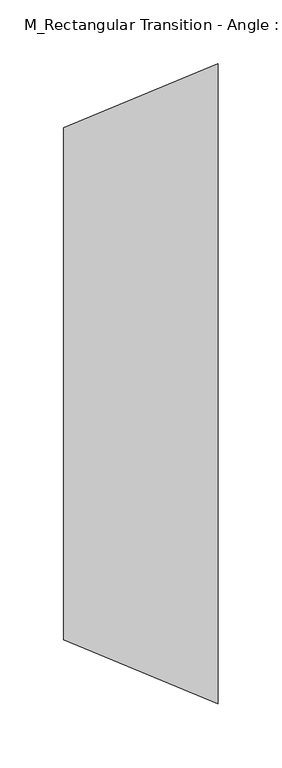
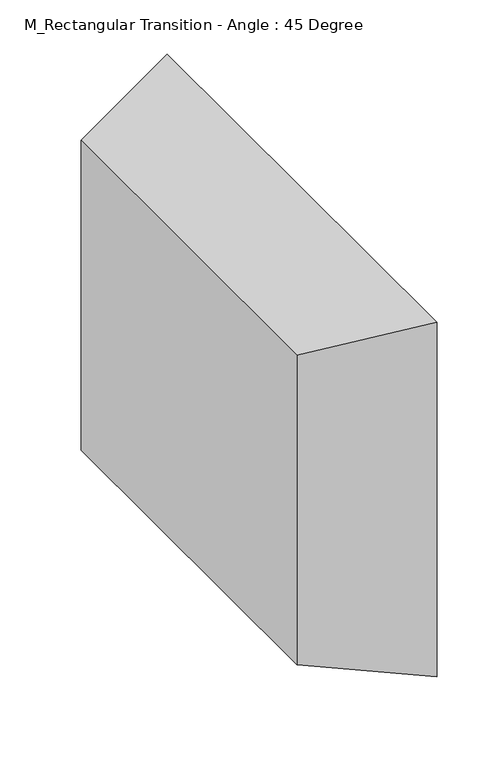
"""IFC4 building model written with IfcOpenShell, lengths in millimetres: duct fitting geometry, M_Rectangular Transition - Angle : 45 Degree."""

from ifc_helpers import new_model, si_unit, origin, place, context, project, spatial, faceted_brep, source, transform, mapped, element, save


def m_rectangular_transition_angle_45_degree_0f029b1d(model_context):
    return source(origin(), model_context, "Body", "Brep", [
        faceted_brep([(120.7106781, -250.0, 200.0), (120.7106781, -250.0, -200.0), (120.7106781, 250.0, -200.0), (120.7106781, 250.0, 200.0), (0.0, -200.0, 175.0), (0.0, 200.0, 175.0), (0.0, 200.0, -175.0), (0.0, -200.0, -175.0)], [[[0, 1, 2, 3]], [[4, 5, 6, 7]], [[4, 7, 1, 0]], [[7, 6, 2, 1]], [[6, 5, 3, 2]], [[5, 4, 0, 3]]]),
        faceted_brep([(120.7106781, -250.0, 200.0), (120.7106781, -250.0, -200.0), (120.7106781, 250.0, -200.0), (120.7106781, 250.0, 200.0), (0.0, -200.0, 175.0), (0.0, 200.0, 175.0), (0.0, 200.0, -175.0), (0.0, -200.0, -175.0)], [[[0, 1, 2, 3]], [[4, 5, 6, 7]], [[4, 7, 1, 0]], [[7, 6, 2, 1]], [[6, 5, 3, 2]], [[5, 4, 0, 3]]]),
        faceted_brep([(120.7106781, -250.0, 200.0), (120.7106781, -250.0, -200.0), (120.7106781, 250.0, -200.0), (120.7106781, 250.0, 200.0), (0.0, -200.0, 175.0), (0.0, 200.0, 175.0), (0.0, 200.0, -175.0), (0.0, -200.0, -175.0)], [[[0, 1, 2, 3]], [[4, 5, 6, 7]], [[4, 7, 1, 0]], [[7, 6, 2, 1]], [[6, 5, 3, 2]], [[5, 4, 0, 3]]]),
    ])


if __name__ == "__main__":
    model = new_model("IFC4")
    model_context = context("Model", 3, world=origin())
    ifc_project = project(units=[si_unit("LENGTHUNIT", "METRE", prefix="MILLI")], contexts=[model_context])
    site = spatial("IfcSite", under=ifc_project)
    building = spatial("IfcBuilding", under=site)
    placement = place(None, origin())
    m_rectangular_transition_angle_45_degree_shape = m_rectangular_transition_angle_45_degree_0f029b1d(model_context)
    element("IfcDuctFitting", 1, ObjectType="M_Rectangular Transition - Angle : 45 Degree", at=placement, inside=building, context=model_context, shape_type="MappedRepresentation", body=[
        mapped(m_rectangular_transition_angle_45_degree_shape, transform((0.0, 0.0, 0.0), x_axis=(1.0, 0.0, 0.0), y_axis=(0.0, 1.0, 0.0), z_axis=(0.0, 0.0, 1.0))),
    ])
    save(model, "model.ifc")
